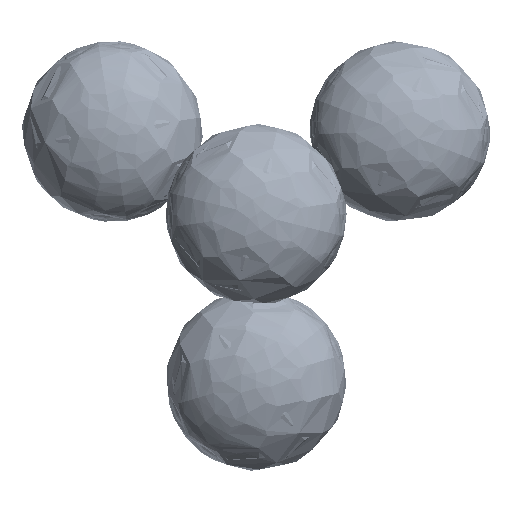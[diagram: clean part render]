
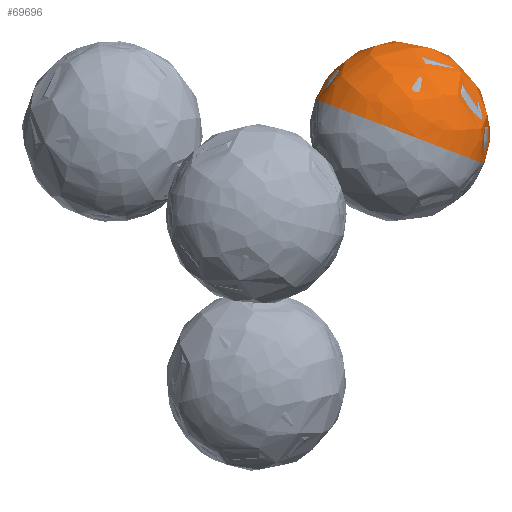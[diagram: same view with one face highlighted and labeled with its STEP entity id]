
A CAD part, front view. The second image highlights one B-rep face of the part: STEP entity #69696.
In plain terms, the highlighted free-form (B-spline) face has degree [3, 3] with [4, 4] control points.
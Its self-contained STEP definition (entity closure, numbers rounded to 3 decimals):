
#5182 = CARTESIAN_POINT ( 'NONE',  ( 51.607, 101.876, 0. ) ) ;
#6076 = ORIENTED_EDGE ( 'NONE', *, *, #69995, .F. ) ;
#11152 =( BOUNDED_SURFACE ( )  B_SPLINE_SURFACE ( 3, 3, ( 
 ( #23732, #61666, #30571, #89863 ),
 ( #53423, #83038, #83992, #30078 ),
 ( #46125, #91297, #76691, #53906 ),
 ( #69428, #59749, #22785, #75746 ) ),
 .UNSPECIFIED., .F., .F., .F. ) 
 B_SPLINE_SURFACE_WITH_KNOTS ( ( 4, 4 ),
 ( 4, 4 ),
 ( 0., 1. ),
 ( 0., 1. ),
 .UNSPECIFIED. ) 
 GEOMETRIC_REPRESENTATION_ITEM ( )  RATIONAL_B_SPLINE_SURFACE ( (
 ( 1., 0.333, 0.333, 1.),
 ( 0.45, 0.15, 0.15, 0.45),
 ( 0.45, 0.15, 0.15, 0.45),
 ( 1., 0.333, 0.333, 1.) ) ) 
 REPRESENTATION_ITEM ( '' )  SURFACE ( )  );
#19044 = CARTESIAN_POINT ( 'NONE',  ( 0., 101.876, 0. ) ) ;
#19712 = CARTESIAN_POINT ( 'NONE',  ( -51.607, 101.876, 0. ) ) ;
#22173 = CARTESIAN_POINT ( 'NONE',  ( 257.142, 47.401, 0. ) ) ;
#22785 = CARTESIAN_POINT ( 'NONE',  ( -51.607, 101.876, -103.214 ) ) ;
#23732 = CARTESIAN_POINT ( 'NONE',  ( 0., -108.5, 0. ) ) ;
#30078 = CARTESIAN_POINT ( 'NONE',  ( -218.898, -108.5, 0. ) ) ;
#30571 = CARTESIAN_POINT ( 'NONE',  ( 0., -108.5, 0. ) ) ;
#31309 = VERTEX_POINT ( 'NONE', #19712 ) ;
#32002 = FACE_OUTER_BOUND ( 'NONE', #63649, .T. ) ;
#35539 = AXIS2_PLACEMENT_3D ( 'NONE', #19044, #56523, #48736 ) ;
#36307 = CARTESIAN_POINT ( 'NONE',  ( 218.898, -108.5, 0. ) ) ;
#43812 = CARTESIAN_POINT ( 'NONE',  ( -51.607, 101.876, 0. ) ) ;
#44298 = CARTESIAN_POINT ( 'NONE',  ( -218.898, -108.5, 0. ) ) ;
#45797 = ORIENTED_EDGE ( 'NONE', *, *, #47346, .T. ) ;
#45951 =( BOUNDED_CURVE ( )  B_SPLINE_CURVE ( 3, ( #65688, #44298, #50635, #43812 ),
 .UNSPECIFIED., .F., .F. ) 
 B_SPLINE_CURVE_WITH_KNOTS ( ( 4, 4 ),
 ( 1.571, 4.361 ),
 .UNSPECIFIED. ) 
 CURVE ( )  GEOMETRIC_REPRESENTATION_ITEM ( )  RATIONAL_B_SPLINE_CURVE ( ( 1., 0.45, 0.45, 1. ) ) 
 REPRESENTATION_ITEM ( '' )  );
#46125 = CARTESIAN_POINT ( 'NONE',  ( 257.142, 47.401, 0. ) ) ;
#46443 = CIRCLE ( 'NONE', #35539, 51.607 ) ;
#47346 = EDGE_CURVE ( 'NONE', #61338, #31309, #45951, .T. ) ;
#47616 = VERTEX_POINT ( 'NONE', #92361 ) ;
#48736 = DIRECTION ( 'NONE',  ( -1., 0., 0. ) ) ;
#50635 = CARTESIAN_POINT ( 'NONE',  ( -257.142, 47.401, 0. ) ) ;
#53259 = CARTESIAN_POINT ( 'NONE',  ( 0., -108.5, 0. ) ) ;
#53423 = CARTESIAN_POINT ( 'NONE',  ( 218.898, -108.5, 0. ) ) ;
#53906 = CARTESIAN_POINT ( 'NONE',  ( -257.142, 47.401, 0. ) ) ;
#56523 = DIRECTION ( 'NONE',  ( 0., 1., 0. ) ) ;
#59749 = CARTESIAN_POINT ( 'NONE',  ( 51.607, 101.876, -103.214 ) ) ;
#61338 = VERTEX_POINT ( 'NONE', #53259 ) ;
#61666 = CARTESIAN_POINT ( 'NONE',  ( 0., -108.5, 0. ) ) ;
#63649 = EDGE_LOOP ( 'NONE', ( #6076, #45797, #87096 ) ) ;
#65688 = CARTESIAN_POINT ( 'NONE',  ( 0., -108.5, 0. ) ) ;
#68225 = EDGE_CURVE ( 'NONE', #47616, #31309, #46443, .T. ) ;
#69428 = CARTESIAN_POINT ( 'NONE',  ( 51.607, 101.876, 0. ) ) ;
#69696 = ADVANCED_FACE ( 'NONE', ( #32002 ), #11152, .F. ) ;
#69995 = EDGE_CURVE ( 'NONE', #61338, #47616, #78150, .T. ) ;
#71814 = CARTESIAN_POINT ( 'NONE',  ( 0., -108.5, 0. ) ) ;
#75746 = CARTESIAN_POINT ( 'NONE',  ( -51.607, 101.876, 0. ) ) ;
#76691 = CARTESIAN_POINT ( 'NONE',  ( -257.142, 47.401, -514.284 ) ) ;
#78150 =( BOUNDED_CURVE ( )  B_SPLINE_CURVE ( 3, ( #71814, #36307, #22173, #5182 ),
 .UNSPECIFIED., .F., .F. ) 
 B_SPLINE_CURVE_WITH_KNOTS ( ( 4, 4 ),
 ( 1.571, 4.361 ),
 .UNSPECIFIED. ) 
 CURVE ( )  GEOMETRIC_REPRESENTATION_ITEM ( )  RATIONAL_B_SPLINE_CURVE ( ( 1., 0.45, 0.45, 1. ) ) 
 REPRESENTATION_ITEM ( '' )  );
#83038 = CARTESIAN_POINT ( 'NONE',  ( 218.898, -108.5, -437.797 ) ) ;
#83992 = CARTESIAN_POINT ( 'NONE',  ( -218.898, -108.5, -437.797 ) ) ;
#87096 = ORIENTED_EDGE ( 'NONE', *, *, #68225, .F. ) ;
#89863 = CARTESIAN_POINT ( 'NONE',  ( 0., -108.5, 0. ) ) ;
#91297 = CARTESIAN_POINT ( 'NONE',  ( 257.142, 47.401, -514.284 ) ) ;
#92361 = CARTESIAN_POINT ( 'NONE',  ( 51.607, 101.876, 0. ) ) ;
